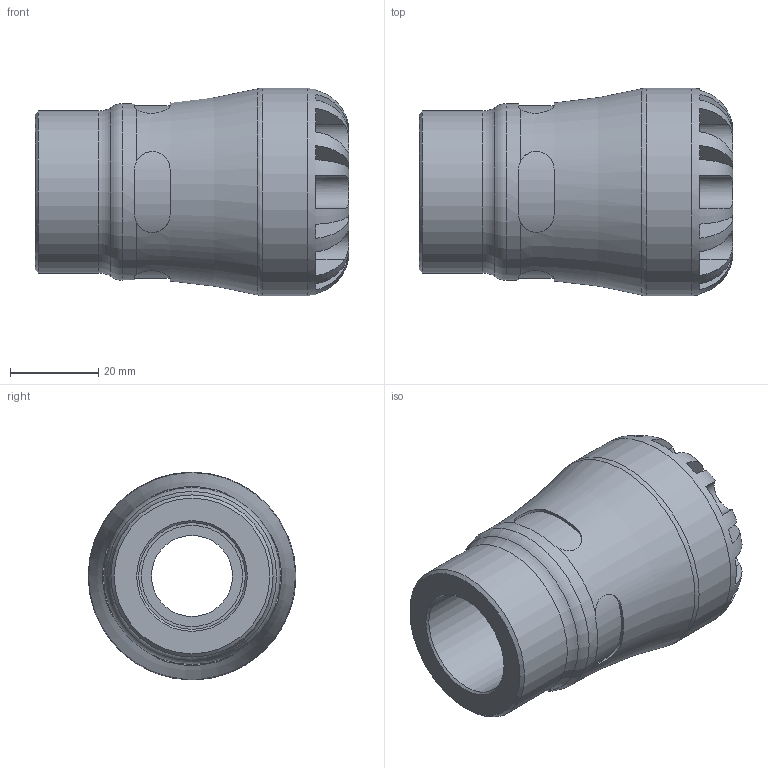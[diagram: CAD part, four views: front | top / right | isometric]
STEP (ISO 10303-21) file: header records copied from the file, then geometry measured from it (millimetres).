
FILE_DESCRIPTION(/* description */ ('PLASSON FEMALE COPPER ADAPTOR 22X3/4" SERIES 1'),/* implementation_level */ '2;1');
FILE_NAME(/* name */ 'C:\Dropbox\KIMPROJECTS-Inventor\99-16-3568-Processing\1003C\1003C7022007.ipt.step',/* time_stamp */ '2017-01-22T10:25:22+02:00',/* author */ ('KIM'),/* organization */ (''),/* preprocessor_version */ 'ST-DEVELOPER v15.6',/* originating_system */ 'Autodesk Inventor 2015',/* authorisation */ '');
FILE_SCHEMA (('AUTOMOTIVE_DESIGN { 1 0 10303 214 3 1 1 }'));
Length unit declared in the file: millimetre
Products named in the file (1): 1003C7022007
Bounding box: 71 x 47 x 47 mm (x, y, z)
Volume: 64935.7 mm3; surface area: 17749.4 mm2
Topology: 1 solids, 1 shells, 104 faces, 265 edges, 166 vertices
Faces by surface type: plane 61, cylinder 35, torus 5, cone 3
Full cylindrical faces by diameter (mm): 18.333 x1, 22 x1, 22.911 x1, 24.117 x1, 36.66 x1, 39.95 x1, 47 x1
Entity records: 3956 total; most frequent: CARTESIAN_POINT 1465, ORIENTED_EDGE 492, DIRECTION 478, EDGE_CURVE 246, AXIS2_PLACEMENT_3D 199, VERTEX_POINT 162, EDGE_LOOP 124, STYLED_ITEM 105
